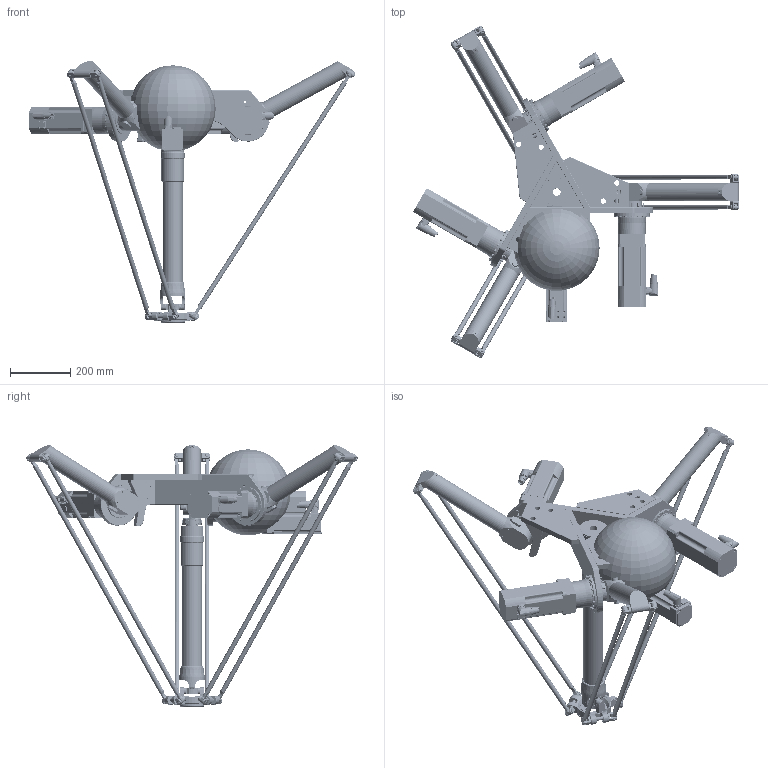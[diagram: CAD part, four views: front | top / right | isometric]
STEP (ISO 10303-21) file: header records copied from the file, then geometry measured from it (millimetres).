
FILE_DESCRIPTION (( 'STEP AP214' ), '1' );
FILE_NAME ('DR4120C-AX003.STEP', '2020-04-07T06:55:05', ( '' ), ( '' ), 'SwSTEP 2.0', 'SolidWorks 2017', '' );
FILE_SCHEMA (( 'AUTOMOTIVE_DESIGN' ));
Length unit declared in the file: millimetre
Products named in the file (4): DR4120C-AX003; 8LSA35_DB060S200_3_5; DR4120C-AX003_3D_ohne_Motor; 8LSAA2_D9045S200_3_1
Assembly tree (5 placements, depth 2):
  DR4120C-AX003
    DR4120C-AX003_3D_ohne_Motor
    8LSAA2_D9045S200_3_1
    8LSA35_DB060S200_3_5  x3
Bounding box: 1083.03 x 1103.09 x 868.97 mm (x, y, z)
Volume: 31302905.4 mm3; surface area: 2817017.5 mm2
Topology: 35 solids, 51 shells, 5366 faces, 12705 edges, 8053 vertices
Faces by surface type: plane 2867, cylinder 1503, cone 588, bspline 406, torus 2
Full cylindrical faces by diameter (mm): 1 x16, 2 x5, 2.06 x1, 3.3 x3, 4.13 x1, 4.134 x4, 4.3 x3, 4.5 x12, 4.917 x13, 5 x48, 5.3 x1, 5.5 x26, 5.8 x4, 6 x73, 6.5 x6, 6.647 x3, 7 x22, 7.318 x12, 7.5 x48, 8 x41, 8.5 x96, 10 x46, 11 x1, 11.4 x1, 12 x26, 14 x4, 15 x3, 15.4 x1, 16 x31, 17.5 x9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
Entity records: 200449 total; most frequent: CARTESIAN_POINT 67510, DIRECTION 17854, ORIENTED_EDGE 17594, EDGE_CURVE 8797, AXIS2_PLACEMENT_3D 6643, VERTEX_POINT 5989, EDGE_LOOP 5844, FACE_OUTER_BOUND 5012
